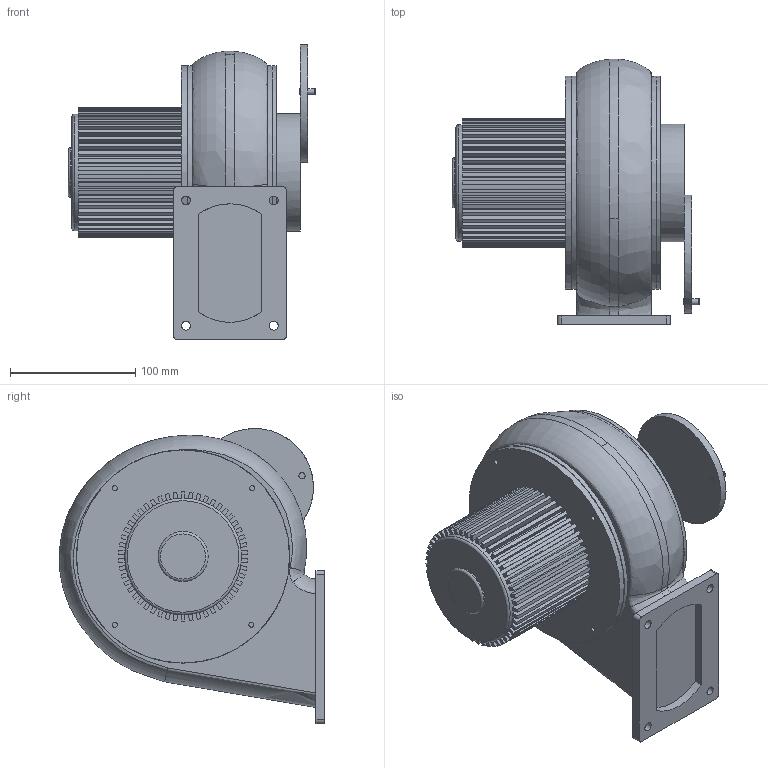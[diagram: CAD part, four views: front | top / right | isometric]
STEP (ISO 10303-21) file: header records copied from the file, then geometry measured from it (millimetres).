
FILE_DESCRIPTION(/* description */ ('Unknown'),/* implementation_level */ '2;1');
FILE_NAME(/* name */ '20200624 TS-201',/* time_stamp */ '2020-06-28T18:52:24+08:00',/* author */ ('å¤§èºè¨­è¨æéå¬å¸'),/* organization */ ('Unknown'),/* preprocessor_version */ 'ST-DEVELOPER v16.7',/* originating_system */ 'DEX',/* authorisation */ $);
FILE_SCHEMA (('AUTOMOTIVE_DESIGN {1 0 10303 214 3 1 1}'));
Length unit declared in the file: millimetre
Products named in the file (1): 20200624 TS-201
Bounding box: 197.5 x 211.76 x 235.4 mm (x, y, z)
Volume: 3077351.8 mm3; surface area: 218508.2 mm2
Topology: 1 solids, 1 shells, 280 faces, 774 edges, 512 vertices
Faces by surface type: plane 232, cylinder 32, bspline 9, cone 4, torus 3
Full cylindrical faces by diameter (mm): 3.977 x8, 5.025 x2, 7 x4, 40 x1, 86 x1, 93 x1, 94 x2, 170.007 x4
Entity records: 11672 total; most frequent: CARTESIAN_POINT 4531, ORIENTED_EDGE 1472, DIRECTION 1444, EDGE_CURVE 736, LINE 536, VECTOR 536, VERTEX_POINT 504, AXIS2_PLACEMENT_3D 454
